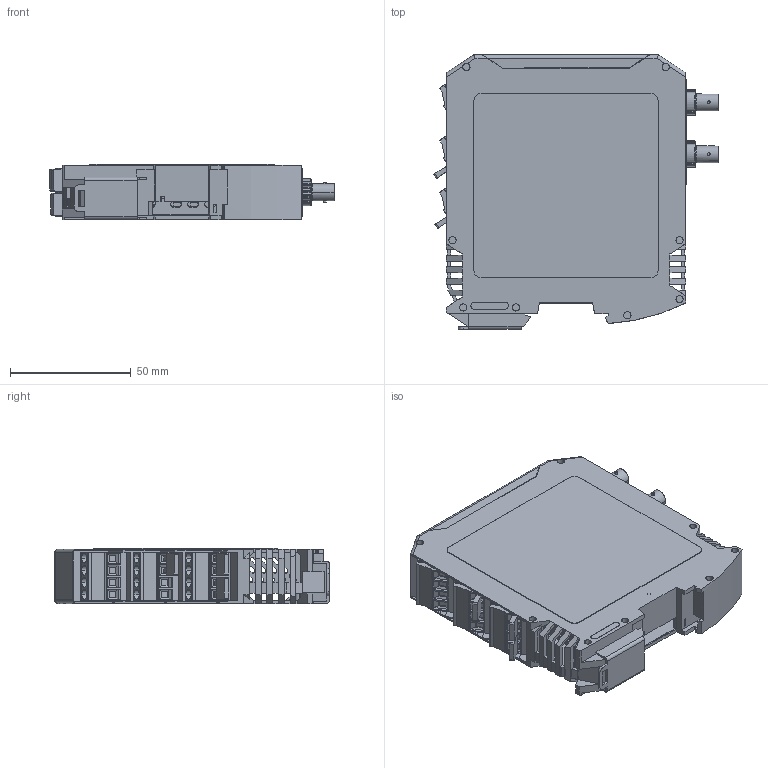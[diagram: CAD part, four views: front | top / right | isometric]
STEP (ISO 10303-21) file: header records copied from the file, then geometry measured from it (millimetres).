
FILE_DESCRIPTION (( 'STEP AP214' ), '1' );
FILE_NAME ('FTX-200-LUX+3.STEP', '2015-11-17T21:58:31', ( 'Daryl' ), ( 'Microsoft' ), 'SwSTEP 2.0', 'SolidWorks 2014', '' );
FILE_SCHEMA (( 'AUTOMOTIVE_DESIGN' ));
Length unit declared in the file: millimetre
Products named in the file (1): FTX-200-LUX+3
Bounding box: 117.68 x 113.78 x 22.95 mm (x, y, z)
Volume: 62780.4 mm3; surface area: 83832.1 mm2
Topology: 2 solids, 22 shells, 4086 faces, 11612 edges, 7639 vertices
Faces by surface type: plane 2583, cylinder 927, bspline 502, cone 70, torus 4
Entity records: 211082 total; most frequent: CARTESIAN_POINT 62548, ORIENTED_EDGE 23220, DIRECTION 18818, EDGE_CURVE 11610, VECTOR 8296, LINE 8296, VERTEX_POINT 7639, AXIS2_PLACEMENT_3D 5261
